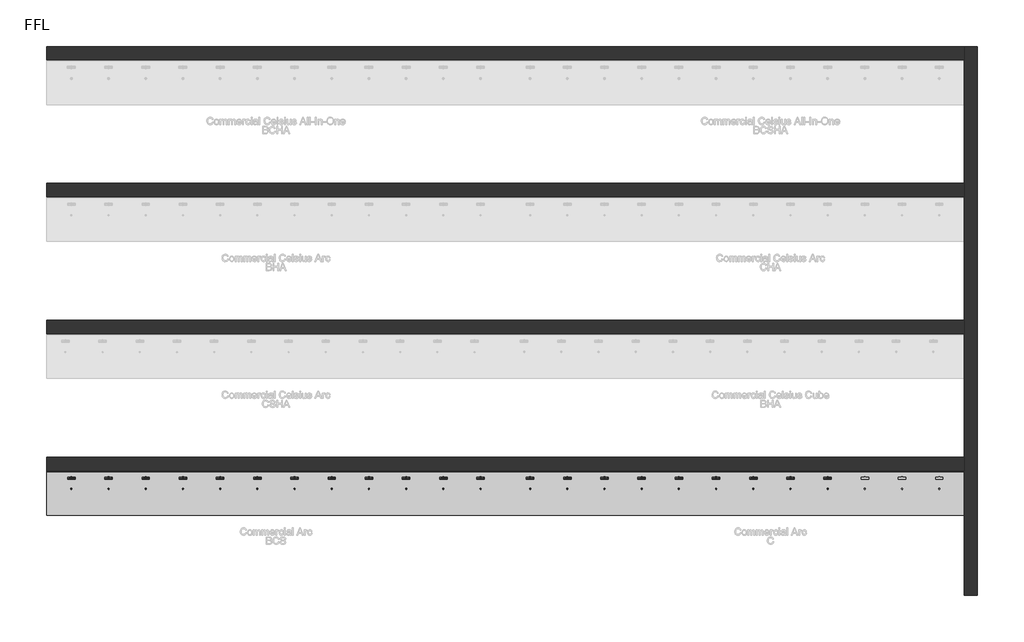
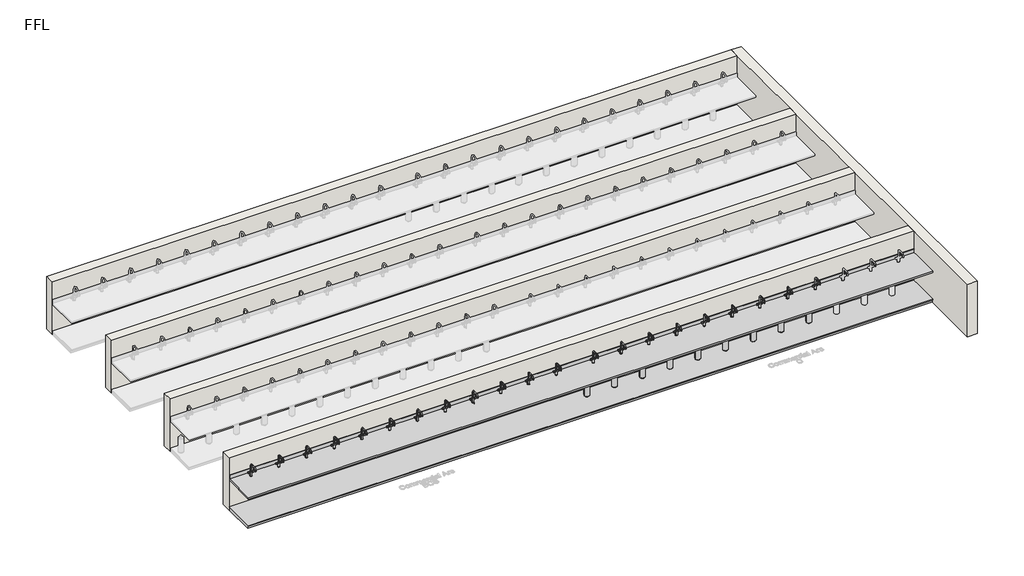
# One storey, part 1 of 9: 52 flow terminals, 5 walls, 2 furniture elements.
"""IFC4 building model written with IfcOpenShell, lengths in millimetres."""

from ifc_helpers import new_model, si_unit, frame, origin, origin_with_axes, place, context, project, spatial, polyline, circle_curve, outline, extrude, faceted_brep, transform, mapped, element, save
from ifc_brep_helpers import plane_surface, revolved_surface, advanced_brep
from components import flow_terminal_100_people_nickel_0dc622b1, bright_chrome_d5fbbf34, co2_gas_cylinder_20234e14, generic_plinth_900mm_f287d53f

model = new_model("IFC4")

# Units and contexts
model_context = context("Model", 3, world=origin())
ifc_project = project(units=[si_unit("LENGTHUNIT", "METRE", prefix="MILLI")], contexts=[model_context])

# Site, building, storey
site = spatial("IfcSite", under=ifc_project)
building = spatial("IfcBuilding", under=site)
storey = spatial("IfcBuildingStorey", under=building, Name="FFL", Elevation=0.0)

# Flow terminals
placement = place(None, origin())
flow_terminal_100_people_nickel_shape = flow_terminal_100_people_nickel_0dc622b1(model_context)
element("IfcFlowTerminal", 1, ObjectType="PlumFixt_Zip Commercial_Celsius Cube_CSHA : 100 People - Bright Chrome", at=placement, inside=storey, context=model_context, shape_type="MappedRepresentation", body=[
    mapped(flow_terminal_100_people_nickel_shape, transform((2779.2647071, -697.2606696, 0.0), x_axis=(1.0, 0.0, 0.0), y_axis=(0.0, 1.0, 0.0), z_axis=(0.0, 0.0, 1.0))),
])
element("IfcFlowTerminal", 2, ObjectType="PlumFixt_Zip Commercial_Celsius Cube_CHA : 100 People - Bright Chrome", at=placement, inside=storey, context=model_context, shape_type="MappedRepresentation", body=[
    mapped(flow_terminal_100_people_nickel_shape, transform((-6470.7352929, -697.2606696, 0.0), x_axis=(1.0, 0.0, 0.0), y_axis=(0.0, 1.0, 0.0), z_axis=(0.0, 0.0, 1.0))),
])
element("IfcFlowTerminal", 3, ObjectType="PlumFixt_Zip Commercial_Celsius Cube_CSHA : 100 People - Brushed Chrome", at=placement, inside=storey, context=model_context, shape_type="MappedRepresentation", body=[
    mapped(flow_terminal_100_people_nickel_shape, transform((3529.2647071, -697.2606696, 0.0), x_axis=(1.0, 0.0, 0.0), y_axis=(0.0, 1.0, 0.0), z_axis=(0.0, 0.0, 1.0))),
])
element("IfcFlowTerminal", 4, ObjectType="PlumFixt_Zip Commercial_Celsius Cube_CHA : 100 People - Brushed Chrome", at=placement, inside=storey, context=model_context, shape_type="MappedRepresentation", body=[
    mapped(flow_terminal_100_people_nickel_shape, transform((-5720.7352929, -697.2606696, 0.0), x_axis=(1.0, 0.0, 0.0), y_axis=(0.0, 1.0, 0.0), z_axis=(0.0, 0.0, 1.0))),
])
element("IfcFlowTerminal", 5, ObjectType="PlumFixt_Zip Commercial_Celsius Cube_CHA : 100 People - Brushed Gold", at=placement, inside=storey, context=model_context, shape_type="MappedRepresentation", body=[
    mapped(flow_terminal_100_people_nickel_shape, transform((-4970.7352929, -697.2606696, 0.0), x_axis=(1.0, 0.0, 0.0), y_axis=(0.0, 1.0, 0.0), z_axis=(0.0, 0.0, 1.0))),
])
element("IfcFlowTerminal", 6, ObjectType="PlumFixt_Zip Commercial_Celsius Cube_CSHA : 100 People - Brushed Nickel", at=placement, inside=storey, context=model_context, shape_type="MappedRepresentation", body=[
    mapped(flow_terminal_100_people_nickel_shape, transform((4279.2647071, -697.2606696, 0.0), x_axis=(1.0, 0.0, 0.0), y_axis=(0.0, 1.0, 0.0), z_axis=(0.0, 0.0, 1.0))),
])
element("IfcFlowTerminal", 7, ObjectType="PlumFixt_Zip Commercial_Celsius Cube_CSHA : 100 People - Brushed Nickel", at=placement, inside=storey, context=model_context, shape_type="MappedRepresentation", body=[
    mapped(flow_terminal_100_people_nickel_shape, transform((5029.2647071, -697.2606696, 0.0), x_axis=(1.0, 0.0, 0.0), y_axis=(0.0, 1.0, 0.0), z_axis=(0.0, 0.0, 1.0))),
])
element("IfcFlowTerminal", 8, ObjectType="PlumFixt_Zip Commercial_Celsius Cube_CHA : 100 People - Brushed Nickel", at=placement, inside=storey, context=model_context, shape_type="MappedRepresentation", body=[
    mapped(flow_terminal_100_people_nickel_shape, transform((-4220.7352929, -697.2606696, 0.0), x_axis=(1.0, 0.0, 0.0), y_axis=(0.0, 1.0, 0.0), z_axis=(0.0, 0.0, 1.0))),
])
element("IfcFlowTerminal", 9, ObjectType="PlumFixt_Zip Commercial_Celsius Cube_CSHA : 100 People - Brushed Rose Gold", at=placement, inside=storey, context=model_context, shape_type="MappedRepresentation", body=[
    mapped(flow_terminal_100_people_nickel_shape, transform((5779.2647071, -697.2606696, 0.0), x_axis=(1.0, 0.0, 0.0), y_axis=(0.0, 1.0, 0.0), z_axis=(0.0, 0.0, 1.0))),
])
element("IfcFlowTerminal", 10, ObjectType="PlumFixt_Zip Commercial_Celsius Cube_CHA : 100 People - Brushed Rose Gold", at=placement, inside=storey, context=model_context, shape_type="MappedRepresentation", body=[
    mapped(flow_terminal_100_people_nickel_shape, transform((-3470.7352929, -697.2606696, 0.0), x_axis=(1.0, 0.0, 0.0), y_axis=(0.0, 1.0, 0.0), z_axis=(0.0, 0.0, 1.0))),
])
element("IfcFlowTerminal", 11, ObjectType="PlumFixt_Zip Commercial_Celsius Cube_CSHA : 100 People - Gloss Black", at=placement, inside=storey, context=model_context, shape_type="MappedRepresentation", body=[
    mapped(flow_terminal_100_people_nickel_shape, transform((6529.2647071, -697.2606696, 0.0), x_axis=(1.0, 0.0, 0.0), y_axis=(0.0, 1.0, 0.0), z_axis=(0.0, 0.0, 1.0))),
])
element("IfcFlowTerminal", 12, ObjectType="PlumFixt_Zip Commercial_Celsius Cube_CHA : 100 People - Gloss Black", at=placement, inside=storey, context=model_context, shape_type="MappedRepresentation", body=[
    mapped(flow_terminal_100_people_nickel_shape, transform((-2720.7352929, -697.2606696, 0.0), x_axis=(1.0, 0.0, 0.0), y_axis=(0.0, 1.0, 0.0), z_axis=(0.0, 0.0, 1.0))),
])
element("IfcFlowTerminal", 13, ObjectType="PlumFixt_Zip Commercial_Celsius Cube_CSHA : 100 People - Gold", at=placement, inside=storey, context=model_context, shape_type="MappedRepresentation", body=[
    mapped(flow_terminal_100_people_nickel_shape, transform((7279.2647071, -697.2606696, 0.0), x_axis=(1.0, 0.0, 0.0), y_axis=(0.0, 1.0, 0.0), z_axis=(0.0, 0.0, 1.0))),
])
element("IfcFlowTerminal", 14, ObjectType="PlumFixt_Zip Commercial_Celsius Cube_CHA : 100 People - Gold", at=placement, inside=storey, context=model_context, shape_type="MappedRepresentation", body=[
    mapped(flow_terminal_100_people_nickel_shape, transform((-1970.7352929, -697.2606696, 0.0), x_axis=(1.0, 0.0, 0.0), y_axis=(0.0, 1.0, 0.0), z_axis=(0.0, 0.0, 1.0))),
])
element("IfcFlowTerminal", 15, ObjectType="PlumFixt_Zip Commercial_Celsius Cube_CSHA : 100 People - Gunmetal", at=placement, inside=storey, context=model_context, shape_type="MappedRepresentation", body=[
    mapped(flow_terminal_100_people_nickel_shape, transform((8029.2647071, -697.2606696, 0.0), x_axis=(1.0, 0.0, 0.0), y_axis=(0.0, 1.0, 0.0), z_axis=(0.0, 0.0, 1.0))),
])
element("IfcFlowTerminal", 16, ObjectType="PlumFixt_Zip Commercial_Celsius Cube_CHA : 100 People - Gunmetal", at=placement, inside=storey, context=model_context, shape_type="MappedRepresentation", body=[
    mapped(flow_terminal_100_people_nickel_shape, transform((-1220.7352929, -697.2606696, 0.0), x_axis=(1.0, 0.0, 0.0), y_axis=(0.0, 1.0, 0.0), z_axis=(0.0, 0.0, 1.0))),
])
element("IfcFlowTerminal", 17, ObjectType="PlumFixt_Zip Commercial_Celsius Cube_CSHA : 100 People - Matte Black", at=placement, inside=storey, context=model_context, shape_type="MappedRepresentation", body=[
    mapped(flow_terminal_100_people_nickel_shape, transform((8779.2647071, -697.2606696, 0.0), x_axis=(1.0, 0.0, 0.0), y_axis=(0.0, 1.0, 0.0), z_axis=(0.0, 0.0, 1.0))),
])
element("IfcFlowTerminal", 18, ObjectType="PlumFixt_Zip Commercial_Celsius Cube_CHA : 100 People - Matte Black", at=placement, inside=storey, context=model_context, shape_type="MappedRepresentation", body=[
    mapped(flow_terminal_100_people_nickel_shape, transform((-470.7352929, -697.2606696, 0.0), x_axis=(1.0, 0.0, 0.0), y_axis=(0.0, 1.0, 0.0), z_axis=(0.0, 0.0, 1.0))),
])
element("IfcFlowTerminal", 19, ObjectType="PlumFixt_Zip Commercial_Celsius Cube_CSHA : 100 People - Nickel", at=placement, inside=storey, context=model_context, shape_type="MappedRepresentation", body=[
    mapped(flow_terminal_100_people_nickel_shape, transform((9529.2647071, -697.2606696, 0.0), x_axis=(1.0, 0.0, 0.0), y_axis=(0.0, 1.0, 0.0), z_axis=(0.0, 0.0, 1.0))),
])
element("IfcFlowTerminal", 20, ObjectType="PlumFixt_Zip Commercial_Celsius Cube_CHA : 100 People - Nickel", at=placement, inside=storey, context=model_context, shape_type="MappedRepresentation", body=[
    mapped(flow_terminal_100_people_nickel_shape, transform((279.2647071, -697.2606696, 0.0), x_axis=(1.0, 0.0, 0.0), y_axis=(0.0, 1.0, 0.0), z_axis=(0.0, 0.0, 1.0))),
])
element("IfcFlowTerminal", 21, ObjectType="PlumFixt_Zip Commercial_Celsius Cube_CHA : 100 People - Platinum", at=placement, inside=storey, context=model_context, shape_type="MappedRepresentation", body=[
    mapped(flow_terminal_100_people_nickel_shape, transform((1029.2647071, -697.2606696, 0.0), x_axis=(1.0, 0.0, 0.0), y_axis=(0.0, 1.0, 0.0), z_axis=(0.0, 0.0, 1.0))),
])
element("IfcFlowTerminal", 22, ObjectType="PlumFixt_Zip Commercial_Celsius Cube_CHA : 100 People - Rose Gold", at=placement, inside=storey, context=model_context, shape_type="MappedRepresentation", body=[
    mapped(flow_terminal_100_people_nickel_shape, transform((1779.2647071, -697.2606696, 0.0), x_axis=(1.0, 0.0, 0.0), y_axis=(0.0, 1.0, 0.0), z_axis=(0.0, 0.0, 1.0))),
])
bright_chrome_shape = bright_chrome_d5fbbf34(model_context)
element("IfcFlowTerminal", 23, ObjectType="z_PlumFixt_Zip_Celsius Cube : Bright Chrome", at=placement, inside=storey, context=model_context, shape_type="MappedRepresentation", body=[
    mapped(bright_chrome_shape, transform((-6470.7352929, -670.5106696, 900.0), x_axis=(0.9999999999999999, 0.0, 0.0), y_axis=(0.0, 0.9999999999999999, 0.0), z_axis=(0.0, 0.0, 1.0))),
])
element("IfcFlowTerminal", 24, ObjectType="z_PlumFixt_Zip_Celsius Cube : Bright Chrome", at=placement, inside=storey, context=model_context, shape_type="MappedRepresentation", body=[
    mapped(bright_chrome_shape, transform((2779.2647071, -670.5106696, 900.0), x_axis=(1.0, 0.0, 0.0), y_axis=(0.0, 1.0, 0.0), z_axis=(0.0, 0.0, 1.0))),
])
element("IfcFlowTerminal", 25, ObjectType="z_PlumFixt_Zip_Celsius Cube : Brushed Chrome", at=placement, inside=storey, context=model_context, shape_type="MappedRepresentation", body=[
    mapped(bright_chrome_shape, transform((-5720.7352929, -670.5106696, 900.0), x_axis=(0.9999999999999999, 0.0, 0.0), y_axis=(0.0, 0.9999999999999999, 0.0), z_axis=(0.0, 0.0, 1.0))),
])
element("IfcFlowTerminal", 26, ObjectType="z_PlumFixt_Zip_Celsius Cube : Brushed Chrome", at=placement, inside=storey, context=model_context, shape_type="MappedRepresentation", body=[
    mapped(bright_chrome_shape, transform((3529.2647071, -670.5106696, 900.0), x_axis=(1.0, 0.0, 0.0), y_axis=(0.0, 1.0, 0.0), z_axis=(0.0, 0.0, 1.0))),
])
element("IfcFlowTerminal", 27, ObjectType="z_PlumFixt_Zip_Celsius Cube : Brushed Gold", at=placement, inside=storey, context=model_context, shape_type="MappedRepresentation", body=[
    mapped(bright_chrome_shape, transform((-4970.7352929, -670.5106696, 900.0), x_axis=(0.9999999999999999, 0.0, 0.0), y_axis=(0.0, 0.9999999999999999, 0.0), z_axis=(0.0, 0.0, 1.0))),
])
element("IfcFlowTerminal", 28, ObjectType="z_PlumFixt_Zip_Celsius Cube : Brushed Nickel", at=placement, inside=storey, context=model_context, shape_type="MappedRepresentation", body=[
    mapped(bright_chrome_shape, transform((-4220.7352929, -670.5106696, 900.0), x_axis=(0.9999999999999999, 0.0, 0.0), y_axis=(0.0, 0.9999999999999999, 0.0), z_axis=(0.0, 0.0, 1.0))),
])
element("IfcFlowTerminal", 29, ObjectType="z_PlumFixt_Zip_Celsius Cube : Brushed Nickel", at=placement, inside=storey, context=model_context, shape_type="MappedRepresentation", body=[
    mapped(bright_chrome_shape, transform((4279.2647071, -670.5106696, 900.0), x_axis=(1.0, 0.0, 0.0), y_axis=(0.0, 1.0, 0.0), z_axis=(0.0, 0.0, 1.0))),
])
element("IfcFlowTerminal", 30, ObjectType="z_PlumFixt_Zip_Celsius Cube : Brushed Nickel", at=placement, inside=storey, context=model_context, shape_type="MappedRepresentation", body=[
    mapped(bright_chrome_shape, transform((5029.2647071, -670.5106696, 900.0), x_axis=(1.0, 0.0, 0.0), y_axis=(0.0, 1.0, 0.0), z_axis=(0.0, 0.0, 1.0))),
])
element("IfcFlowTerminal", 31, ObjectType="z_PlumFixt_Zip_Celsius Cube : Brushed Rose Gold", at=placement, inside=storey, context=model_context, shape_type="MappedRepresentation", body=[
    mapped(bright_chrome_shape, transform((-3470.7352929, -670.5106696, 900.0), x_axis=(0.9999999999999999, 0.0, 0.0), y_axis=(0.0, 0.9999999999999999, 0.0), z_axis=(0.0, 0.0, 1.0))),
])
element("IfcFlowTerminal", 32, ObjectType="z_PlumFixt_Zip_Celsius Cube : Brushed Rose Gold", at=placement, inside=storey, context=model_context, shape_type="MappedRepresentation", body=[
    mapped(bright_chrome_shape, transform((5779.2647071, -670.5106696, 900.0), x_axis=(1.0, 0.0, 0.0), y_axis=(0.0, 1.0, 0.0), z_axis=(0.0, 0.0, 1.0))),
])
co2_gas_cylinder_shape = co2_gas_cylinder_20234e14(model_context)
element("IfcFlowTerminal", 33, ObjectType="z_PlumFixt_Zip_CO2 Gas Cylinder : CO2 Gas Cylinder", at=placement, inside=storey, context=model_context, shape_type="MappedRepresentation", body=[
    mapped(co2_gas_cylinder_shape, transform((2541.2647071, -776.7606696, 100.0), x_axis=(-1.0, 0.0, 0.0), y_axis=(0.0, -1.0, 0.0), z_axis=(0.0, 0.0, 1.0))),
])
element("IfcFlowTerminal", 34, ObjectType="z_PlumFixt_Zip_CO2 Gas Cylinder : CO2 Gas Cylinder", at=placement, inside=storey, context=model_context, shape_type="MappedRepresentation", body=[
    mapped(co2_gas_cylinder_shape, transform((3291.2647071, -776.7606696, 100.0), x_axis=(-1.0, 0.0, 0.0), y_axis=(0.0, -1.0, 0.0), z_axis=(0.0, 0.0, 1.0))),
])
element("IfcFlowTerminal", 35, ObjectType="z_PlumFixt_Zip_CO2 Gas Cylinder : CO2 Gas Cylinder", at=placement, inside=storey, context=model_context, shape_type="MappedRepresentation", body=[
    mapped(co2_gas_cylinder_shape, transform((4041.2647071, -776.7606696, 100.0), x_axis=(-1.0, 0.0, 0.0), y_axis=(0.0, -1.0, 0.0), z_axis=(0.0, 0.0, 1.0))),
])
element("IfcFlowTerminal", 36, ObjectType="z_PlumFixt_Zip_CO2 Gas Cylinder : CO2 Gas Cylinder", at=placement, inside=storey, context=model_context, shape_type="MappedRepresentation", body=[
    mapped(co2_gas_cylinder_shape, transform((4791.2647071, -776.7606696, 100.0), x_axis=(-1.0, 0.0, 0.0), y_axis=(0.0, -1.0, 0.0), z_axis=(0.0, 0.0, 1.0))),
])
element("IfcFlowTerminal", 37, ObjectType="z_PlumFixt_Zip_CO2 Gas Cylinder : CO2 Gas Cylinder", at=placement, inside=storey, context=model_context, shape_type="MappedRepresentation", body=[
    mapped(co2_gas_cylinder_shape, transform((5541.2647071, -776.7606696, 100.0), x_axis=(-1.0, 0.0, 0.0), y_axis=(0.0, -1.0, 0.0), z_axis=(0.0, 0.0, 1.0))),
])
element("IfcFlowTerminal", 38, ObjectType="z_PlumFixt_Zip_CO2 Gas Cylinder : CO2 Gas Cylinder", at=placement, inside=storey, context=model_context, shape_type="MappedRepresentation", body=[
    mapped(co2_gas_cylinder_shape, transform((6291.2647071, -776.7606696, 100.0), x_axis=(-1.0, 0.0, 0.0), y_axis=(0.0, -1.0, 0.0), z_axis=(0.0, 0.0, 1.0))),
])
element("IfcFlowTerminal", 39, ObjectType="z_PlumFixt_Zip_CO2 Gas Cylinder : CO2 Gas Cylinder", at=placement, inside=storey, context=model_context, shape_type="MappedRepresentation", body=[
    mapped(co2_gas_cylinder_shape, transform((7041.2647071, -776.7606696, 100.0), x_axis=(-1.0, 0.0, 0.0), y_axis=(0.0, -1.0, 0.0), z_axis=(0.0, 0.0, 1.0))),
])
element("IfcFlowTerminal", 40, ObjectType="z_PlumFixt_Zip_CO2 Gas Cylinder : CO2 Gas Cylinder", at=placement, inside=storey, context=model_context, shape_type="MappedRepresentation", body=[
    mapped(co2_gas_cylinder_shape, transform((7791.2647071, -776.7606696, 100.0), x_axis=(-1.0, 0.0, 0.0), y_axis=(0.0, -1.0, 0.0), z_axis=(0.0, 0.0, 1.0))),
])
element("IfcFlowTerminal", 41, ObjectType="z_PlumFixt_Zip_CO2 Gas Cylinder : CO2 Gas Cylinder", at=placement, inside=storey, context=model_context, shape_type="MappedRepresentation", body=[
    mapped(co2_gas_cylinder_shape, transform((8541.2647071, -776.7606696, 100.0), x_axis=(-1.0, 0.0, 0.0), y_axis=(0.0, -1.0, 0.0), z_axis=(0.0, 0.0, 1.0))),
])
element("IfcFlowTerminal", 42, ObjectType="z_PlumFixt_Zip_Celsius Cube : Gloss Black", at=placement, inside=storey, context=model_context, shape_type="MappedRepresentation", body=[
    mapped(bright_chrome_shape, transform((-2720.7352929, -670.5106696, 900.0), x_axis=(0.9999999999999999, 0.0, 0.0), y_axis=(0.0, 0.9999999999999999, 0.0), z_axis=(0.0, 0.0, 1.0))),
])
element("IfcFlowTerminal", 43, ObjectType="z_PlumFixt_Zip_Celsius Cube : Gloss Black", at=placement, inside=storey, context=model_context, shape_type="MappedRepresentation", body=[
    mapped(bright_chrome_shape, transform((6529.2647071, -670.5106696, 900.0), x_axis=(1.0, 0.0, 0.0), y_axis=(0.0, 1.0, 0.0), z_axis=(0.0, 0.0, 1.0))),
])
element("IfcFlowTerminal", 44, ObjectType="z_PlumFixt_Zip_Celsius Cube : Gold", at=placement, inside=storey, context=model_context, shape_type="MappedRepresentation", body=[
    mapped(bright_chrome_shape, transform((-1970.7352929, -670.5106696, 900.0), x_axis=(0.9999999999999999, 0.0, 0.0), y_axis=(0.0, 0.9999999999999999, 0.0), z_axis=(0.0, 0.0, 1.0))),
])
element("IfcFlowTerminal", 45, ObjectType="z_PlumFixt_Zip_Celsius Cube : Gold", at=placement, inside=storey, context=model_context, shape_type="MappedRepresentation", body=[
    mapped(bright_chrome_shape, transform((7279.2647071, -670.5106696, 900.0), x_axis=(1.0, 0.0, 0.0), y_axis=(0.0, 1.0, 0.0), z_axis=(0.0, 0.0, 1.0))),
])
element("IfcFlowTerminal", 46, ObjectType="z_PlumFixt_Zip_Celsius Cube : Gunmetal", at=placement, inside=storey, context=model_context, shape_type="MappedRepresentation", body=[
    mapped(bright_chrome_shape, transform((-1220.7352929, -670.5106696, 900.0), x_axis=(0.9999999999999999, 0.0, 0.0), y_axis=(0.0, 0.9999999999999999, 0.0), z_axis=(0.0, 0.0, 1.0))),
])
element("IfcFlowTerminal", 47, ObjectType="z_PlumFixt_Zip_Celsius Cube : Gunmetal", at=placement, inside=storey, context=model_context, shape_type="MappedRepresentation", body=[
    mapped(bright_chrome_shape, transform((8029.2647071, -670.5106696, 900.0), x_axis=(1.0, 0.0, 0.0), y_axis=(0.0, 1.0, 0.0), z_axis=(0.0, 0.0, 1.0))),
])
element("IfcFlowTerminal", 48, ObjectType="z_PlumFixt_Zip_Celsius Cube : Matte Black", at=placement, inside=storey, context=model_context, shape_type="MappedRepresentation", body=[
    mapped(bright_chrome_shape, transform((-470.7352929, -670.5106696, 900.0), x_axis=(0.9999999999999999, 0.0, 0.0), y_axis=(0.0, 0.9999999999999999, 0.0), z_axis=(0.0, 0.0, 1.0))),
])
element("IfcFlowTerminal", 49, ObjectType="z_PlumFixt_Zip_Celsius Cube : Matte Black", at=placement, inside=storey, context=model_context, shape_type="MappedRepresentation", body=[
    mapped(bright_chrome_shape, transform((8779.2647071, -670.5106696, 900.0), x_axis=(1.0, 0.0, 0.0), y_axis=(0.0, 1.0, 0.0), z_axis=(0.0, 0.0, 1.0))),
])
element("IfcFlowTerminal", 50, ObjectType="z_PlumFixt_Zip_Celsius Cube : Nickel", at=placement, inside=storey, context=model_context, shape_type="MappedRepresentation", body=[
    mapped(bright_chrome_shape, transform((279.2647071, -670.5106696, 900.0), x_axis=(0.9999999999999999, 0.0, 0.0), y_axis=(0.0, 0.9999999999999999, 0.0), z_axis=(0.0, 0.0, 1.0))),
])
element("IfcFlowTerminal", 51, ObjectType="z_PlumFixt_Zip_Celsius Cube : Platinum", at=placement, inside=storey, context=model_context, shape_type="MappedRepresentation", body=[
    mapped(bright_chrome_shape, transform((1029.2647071, -670.5106696, 900.0), x_axis=(0.9999999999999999, 0.0, 0.0), y_axis=(0.0, 0.9999999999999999, 0.0), z_axis=(0.0, 0.0, 1.0))),
])
element("IfcFlowTerminal", 52, ObjectType="z_PlumFixt_Zip_Celsius Cube : Rose Gold", at=placement, inside=storey, context=model_context, shape_type="MappedRepresentation", body=[
    mapped(bright_chrome_shape, transform((1779.2647071, -670.5106696, 900.0), x_axis=(0.9999999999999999, 0.0, 0.0), y_axis=(0.0, 0.9999999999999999, 0.0), z_axis=(0.0, 0.0, 1.0))),
])

# Furniture
element("IfcFurniture", 53, ObjectType="Counter Top : 900mm Depth", at=placement, inside=storey, context=model_context, shape_type="AdvancedBrep", body=[
    advanced_brep(
    [(-6969.7352929, -1331.7606696, 900.0), (11530.2647071, -1331.7606696, 900.0), (11530.2647071, -450.8106696, 900.0), (-6969.7352929, -450.8106696, 900.0), (-6494.2352929, -581.7606696, 900.0), (-6445.2352929, -581.7606696, 900.0), (-5744.2352929, -581.7606696, 900.0), (-5695.2352929, -581.7606696, 900.0), (-4994.2352929, -581.7606696, 900.0), (-4945.2352929, -581.7606696, 900.0), (-4244.2352929, -581.7606696, 900.0), (-4195.2352929, -581.7606696, 900.0), (-3494.2352929, -581.7606696, 900.0), (-3445.2352929, -581.7606696, 900.0), (-2744.2352929, -581.7606696, 900.0), (-2695.2352929, -581.7606696, 900.0), (-1994.2352929, -581.7606696, 900.0), (-1945.2352929, -581.7606696, 900.0), (-1244.2352929, -581.7606696, 900.0), (-1195.2352929, -581.7606696, 900.0), (-494.2352929, -581.7606696, 900.0), (-445.2352929, -581.7606696, 900.0), (255.7647071, -581.7606696, 900.0), (304.7647071, -581.7606696, 900.0), (1005.7647071, -581.7606696, 900.0), (1054.7647071, -581.7606696, 900.0), (1755.7647071, -581.7606696, 900.0), (1804.7647071, -581.7606696, 900.0), (2755.7647071, -581.7606696, 900.0), (2804.7647071, -581.7606696, 900.0), (3505.7647071, -581.7606696, 900.0), (3554.7647071, -581.7606696, 900.0), (4255.7647071, -581.7606696, 900.0), (4304.7647071, -581.7606696, 900.0), (5005.7647071, -581.7606696, 900.0), (5054.7647071, -581.7606696, 900.0), (5755.7647071, -581.7606696, 900.0), (5804.7647071, -581.7606696, 900.0), (6505.7647071, -581.7606696, 900.0), (6554.7647071, -581.7606696, 900.0), (7255.7647071, -581.7606696, 900.0), (7304.7647071, -581.7606696, 900.0), (8005.7647071, -581.7606696, 900.0), (8054.7647071, -581.7606696, 900.0), (8755.7647071, -581.7606696, 900.0), (8804.7647071, -581.7606696, 900.0), (9505.7647071, -581.7606696, 900.0), (9554.7647071, -581.7606696, 900.0), (10255.7647071, -581.7606696, 900.0), (10304.7647071, -581.7606696, 900.0), (11005.7647071, -581.7606696, 900.0), (11054.7647071, -581.7606696, 900.0), (11530.2647071, -431.7606696, 860.0), (11530.2647071, -1331.7606696, 860.0), (-6969.7352929, -1331.7606696, 860.0), (-6969.7352929, -431.7606696, 860.0), (-6445.2352929, -581.7606696, 860.0), (-6494.2352929, -581.7606696, 860.0), (-5695.2352929, -581.7606696, 860.0), (-5744.2352929, -581.7606696, 860.0), (-4945.2352929, -581.7606696, 860.0), (-4994.2352929, -581.7606696, 860.0), (-4195.2352929, -581.7606696, 860.0), (-4244.2352929, -581.7606696, 860.0), (-3445.2352929, -581.7606696, 860.0), (-3494.2352929, -581.7606696, 860.0), (-2695.2352929, -581.7606696, 860.0), (-2744.2352929, -581.7606696, 860.0), (-1945.2352929, -581.7606696, 860.0), (-1994.2352929, -581.7606696, 860.0), (-1195.2352929, -581.7606696, 860.0), (-1244.2352929, -581.7606696, 860.0), (-445.2352929, -581.7606696, 860.0), (-494.2352929, -581.7606696, 860.0), (304.7647071, -581.7606696, 860.0), (255.7647071, -581.7606696, 860.0), (1054.7647071, -581.7606696, 860.0), (1005.7647071, -581.7606696, 860.0), (1804.7647071, -581.7606696, 860.0), (1755.7647071, -581.7606696, 860.0), (2804.7647071, -581.7606696, 860.0), (2755.7647071, -581.7606696, 860.0), (3554.7647071, -581.7606696, 860.0), (3505.7647071, -581.7606696, 860.0), (4304.7647071, -581.7606696, 860.0), (4255.7647071, -581.7606696, 860.0), (5054.7647071, -581.7606696, 860.0), (5005.7647071, -581.7606696, 860.0), (5804.7647071, -581.7606696, 860.0), (5755.7647071, -581.7606696, 860.0), (6554.7647071, -581.7606696, 860.0), (6505.7647071, -581.7606696, 860.0), (7304.7647071, -581.7606696, 860.0), (7255.7647071, -581.7606696, 860.0), (8054.7647071, -581.7606696, 860.0), (8005.7647071, -581.7606696, 860.0), (8804.7647071, -581.7606696, 860.0), (8755.7647071, -581.7606696, 860.0), (9554.7647071, -581.7606696, 860.0), (9505.7647071, -581.7606696, 860.0), (10304.7647071, -581.7606696, 860.0), (10255.7647071, -581.7606696, 860.0), (11054.7647071, -581.7606696, 860.0), (11005.7647071, -581.7606696, 860.0), (-6969.7352929, -431.7606696, 1001.6), (11530.2647071, -431.7606696, 1001.6), (-6969.7352929, -450.8106696, 1001.6), (11530.2647071, -450.8106696, 1001.6)],
    [
        (0, 1),
        (1, 2),
        (2, 3),
        (3, 0),
        (4, 5, circle_curve(frame((-6469.7352929, -581.7606696, 900.0), z_axis=(0.0, 0.0, -1.0), x_axis=(-0.9999999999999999, 0.0, 0.0)), 24.5)),
        (5, 4, circle_curve(frame((-6469.7352929, -581.7606696, 900.0), z_axis=(0.0, 0.0, -1.0), x_axis=(-0.9999999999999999, 0.0, 0.0)), 24.5)),
        (6, 7, circle_curve(frame((-5719.7352929, -581.7606696, 900.0), z_axis=(0.0, 0.0, -1.0), x_axis=(-0.9999999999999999, 0.0, 0.0)), 24.5)),
        (7, 6, circle_curve(frame((-5719.7352929, -581.7606696, 900.0), z_axis=(0.0, 0.0, -1.0), x_axis=(-0.9999999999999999, 0.0, 0.0)), 24.5)),
        (8, 9, circle_curve(frame((-4969.7352929, -581.7606696, 900.0), z_axis=(0.0, 0.0, -1.0), x_axis=(-0.9999999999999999, 0.0, 0.0)), 24.5)),
        (9, 8, circle_curve(frame((-4969.7352929, -581.7606696, 900.0), z_axis=(0.0, 0.0, -1.0), x_axis=(-0.9999999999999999, 0.0, 0.0)), 24.5)),
        (10, 11, circle_curve(frame((-4219.7352929, -581.7606696, 900.0), z_axis=(0.0, 0.0, -1.0), x_axis=(-0.9999999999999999, 0.0, 0.0)), 24.5)),
        (11, 10, circle_curve(frame((-4219.7352929, -581.7606696, 900.0), z_axis=(0.0, 0.0, -1.0), x_axis=(-0.9999999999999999, 0.0, 0.0)), 24.5)),
        (12, 13, circle_curve(frame((-3469.7352929, -581.7606696, 900.0), z_axis=(0.0, 0.0, -1.0), x_axis=(-0.9999999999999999, 0.0, 0.0)), 24.5)),
        (13, 12, circle_curve(frame((-3469.7352929, -581.7606696, 900.0), z_axis=(0.0, 0.0, -1.0), x_axis=(-0.9999999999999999, 0.0, 0.0)), 24.5)),
        (14, 15, circle_curve(frame((-2719.7352929, -581.7606696, 900.0), z_axis=(0.0, 0.0, -1.0), x_axis=(-0.9999999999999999, 0.0, 0.0)), 24.5)),
        (15, 14, circle_curve(frame((-2719.7352929, -581.7606696, 900.0), z_axis=(0.0, 0.0, -1.0), x_axis=(-0.9999999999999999, 0.0, 0.0)), 24.5)),
        (16, 17, circle_curve(frame((-1969.7352929, -581.7606696, 900.0), z_axis=(0.0, 0.0, -1.0), x_axis=(-0.9999999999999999, 0.0, 0.0)), 24.5)),
        (17, 16, circle_curve(frame((-1969.7352929, -581.7606696, 900.0), z_axis=(0.0, 0.0, -1.0), x_axis=(-0.9999999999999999, 0.0, 0.0)), 24.5)),
        (18, 19, circle_curve(frame((-1219.7352929, -581.7606696, 900.0), z_axis=(0.0, 0.0, -1.0), x_axis=(-0.9999999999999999, 0.0, 0.0)), 24.5)),
        (19, 18, circle_curve(frame((-1219.7352929, -581.7606696, 900.0), z_axis=(0.0, 0.0, -1.0), x_axis=(-0.9999999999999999, 0.0, 0.0)), 24.5)),
        (20, 21, circle_curve(frame((-469.7352929, -581.7606696, 900.0), z_axis=(0.0, 0.0, -1.0), x_axis=(-0.9999999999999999, 0.0, 0.0)), 24.5)),
        (21, 20, circle_curve(frame((-469.7352929, -581.7606696, 900.0), z_axis=(0.0, 0.0, -1.0), x_axis=(-0.9999999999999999, 0.0, 0.0)), 24.5)),
        (22, 23, circle_curve(frame((280.2647071, -581.7606696, 900.0), z_axis=(0.0, 0.0, -1.0), x_axis=(-0.9999999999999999, 0.0, 0.0)), 24.5)),
        (23, 22, circle_curve(frame((280.2647071, -581.7606696, 900.0), z_axis=(0.0, 0.0, -1.0), x_axis=(-0.9999999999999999, 0.0, 0.0)), 24.5)),
        (24, 25, circle_curve(frame((1030.2647071, -581.7606696, 900.0), z_axis=(0.0, 0.0, -1.0), x_axis=(-0.9999999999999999, 0.0, 0.0)), 24.5)),
        (25, 24, circle_curve(frame((1030.2647071, -581.7606696, 900.0), z_axis=(0.0, 0.0, -1.0), x_axis=(-0.9999999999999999, 0.0, 0.0)), 24.5)),
        (26, 27, circle_curve(frame((1780.2647071, -581.7606696, 900.0), z_axis=(0.0, 0.0, -1.0), x_axis=(-0.9999999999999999, 0.0, 0.0)), 24.5)),
        (27, 26, circle_curve(frame((1780.2647071, -581.7606696, 900.0), z_axis=(0.0, 0.0, -1.0), x_axis=(-0.9999999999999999, 0.0, 0.0)), 24.5)),
        (28, 29, circle_curve(frame((2780.2647071, -581.7606696, 900.0), z_axis=(0.0, 0.0, -1.0), x_axis=(-1.0, 0.0, 0.0)), 24.5)),
        (29, 28, circle_curve(frame((2780.2647071, -581.7606696, 900.0), z_axis=(0.0, 0.0, -1.0), x_axis=(-1.0, 0.0, 0.0)), 24.5)),
        (30, 31, circle_curve(frame((3530.2647071, -581.7606696, 900.0), z_axis=(0.0, 0.0, -1.0), x_axis=(-1.0, 0.0, 0.0)), 24.5)),
        (31, 30, circle_curve(frame((3530.2647071, -581.7606696, 900.0), z_axis=(0.0, 0.0, -1.0), x_axis=(-1.0, 0.0, 0.0)), 24.5)),
        (32, 33, circle_curve(frame((4280.2647071, -581.7606696, 900.0), z_axis=(0.0, 0.0, -1.0), x_axis=(-1.0, 0.0, 0.0)), 24.5)),
        (33, 32, circle_curve(frame((4280.2647071, -581.7606696, 900.0), z_axis=(0.0, 0.0, -1.0), x_axis=(-1.0, 0.0, 0.0)), 24.5)),
        (34, 35, circle_curve(frame((5030.2647071, -581.7606696, 900.0), z_axis=(0.0, 0.0, -1.0), x_axis=(-1.0, 0.0, 0.0)), 24.5)),
        (35, 34, circle_curve(frame((5030.2647071, -581.7606696, 900.0), z_axis=(0.0, 0.0, -1.0), x_axis=(-1.0, 0.0, 0.0)), 24.5)),
        (36, 37, circle_curve(frame((5780.2647071, -581.7606696, 900.0), z_axis=(0.0, 0.0, -1.0), x_axis=(-1.0, 0.0, 0.0)), 24.5)),
        (37, 36, circle_curve(frame((5780.2647071, -581.7606696, 900.0), z_axis=(0.0, 0.0, -1.0), x_axis=(-1.0, 0.0, 0.0)), 24.5)),
        (38, 39, circle_curve(frame((6530.2647071, -581.7606696, 900.0), z_axis=(0.0, 0.0, -1.0), x_axis=(-1.0, 0.0, 0.0)), 24.5)),
        (39, 38, circle_curve(frame((6530.2647071, -581.7606696, 900.0), z_axis=(0.0, 0.0, -1.0), x_axis=(-1.0, 0.0, 0.0)), 24.5)),
        (40, 41, circle_curve(frame((7280.2647071, -581.7606696, 900.0), z_axis=(0.0, 0.0, -1.0), x_axis=(-1.0, 0.0, 0.0)), 24.5)),
        (41, 40, circle_curve(frame((7280.2647071, -581.7606696, 900.0), z_axis=(0.0, 0.0, -1.0), x_axis=(-1.0, 0.0, 0.0)), 24.5)),
        (42, 43, circle_curve(frame((8030.2647071, -581.7606696, 900.0), z_axis=(0.0, 0.0, -1.0), x_axis=(-1.0, 0.0, 0.0)), 24.5)),
        (43, 42, circle_curve(frame((8030.2647071, -581.7606696, 900.0), z_axis=(0.0, 0.0, -1.0), x_axis=(-1.0, 0.0, 0.0)), 24.5)),
        (44, 45, circle_curve(frame((8780.2647071, -581.7606696, 900.0), z_axis=(0.0, 0.0, -1.0), x_axis=(-1.0, 0.0, 0.0)), 24.5)),
        (45, 44, circle_curve(frame((8780.2647071, -581.7606696, 900.0), z_axis=(0.0, 0.0, -1.0), x_axis=(-1.0, 0.0, 0.0)), 24.5)),
        (46, 47, circle_curve(frame((9530.2647071, -581.7606696, 900.0), z_axis=(0.0, 0.0, -1.0), x_axis=(-1.0, 0.0, 0.0)), 24.5)),
        (47, 46, circle_curve(frame((9530.2647071, -581.7606696, 900.0), z_axis=(0.0, 0.0, -1.0), x_axis=(-1.0, 0.0, 0.0)), 24.5)),
        (48, 49, circle_curve(frame((10280.2647071, -581.7606696, 900.0), z_axis=(0.0, 0.0, -1.0), x_axis=(-1.0, 0.0, 0.0)), 24.5)),
        (49, 48, circle_curve(frame((10280.2647071, -581.7606696, 900.0), z_axis=(0.0, 0.0, -1.0), x_axis=(-1.0, 0.0, 0.0)), 24.5)),
        (50, 51, circle_curve(frame((11030.2647071, -581.7606696, 900.0), z_axis=(0.0, 0.0, -1.0), x_axis=(-1.0, 0.0, 0.0)), 24.5)),
        (51, 50, circle_curve(frame((11030.2647071, -581.7606696, 900.0), z_axis=(0.0, 0.0, -1.0), x_axis=(-1.0, 0.0, 0.0)), 24.5)),
        (52, 53),
        (53, 54),
        (54, 55),
        (55, 52),
        (56, 57, circle_curve(frame((-6469.7352929, -581.7606696, 860.0), z_axis=(0.0, 0.0, 1.0), x_axis=(-0.9999999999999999, 0.0, 0.0)), 24.5)),
        (57, 56, circle_curve(frame((-6469.7352929, -581.7606696, 860.0), z_axis=(0.0, 0.0, 1.0), x_axis=(-0.9999999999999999, 0.0, 0.0)), 24.5)),
        (58, 59, circle_curve(frame((-5719.7352929, -581.7606696, 860.0), z_axis=(0.0, 0.0, 1.0), x_axis=(-0.9999999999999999, 0.0, 0.0)), 24.5)),
        (59, 58, circle_curve(frame((-5719.7352929, -581.7606696, 860.0), z_axis=(0.0, 0.0, 1.0), x_axis=(-0.9999999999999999, 0.0, 0.0)), 24.5)),
        (60, 61, circle_curve(frame((-4969.7352929, -581.7606696, 860.0), z_axis=(0.0, 0.0, 1.0), x_axis=(-0.9999999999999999, 0.0, 0.0)), 24.5)),
        (61, 60, circle_curve(frame((-4969.7352929, -581.7606696, 860.0), z_axis=(0.0, 0.0, 1.0), x_axis=(-0.9999999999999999, 0.0, 0.0)), 24.5)),
        (62, 63, circle_curve(frame((-4219.7352929, -581.7606696, 860.0), z_axis=(0.0, 0.0, 1.0), x_axis=(-0.9999999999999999, 0.0, 0.0)), 24.5)),
        (63, 62, circle_curve(frame((-4219.7352929, -581.7606696, 860.0), z_axis=(0.0, 0.0, 1.0), x_axis=(-0.9999999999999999, 0.0, 0.0)), 24.5)),
        (64, 65, circle_curve(frame((-3469.7352929, -581.7606696, 860.0), z_axis=(0.0, 0.0, 1.0), x_axis=(-0.9999999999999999, 0.0, 0.0)), 24.5)),
        (65, 64, circle_curve(frame((-3469.7352929, -581.7606696, 860.0), z_axis=(0.0, 0.0, 1.0), x_axis=(-0.9999999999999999, 0.0, 0.0)), 24.5)),
        (66, 67, circle_curve(frame((-2719.7352929, -581.7606696, 860.0), z_axis=(0.0, 0.0, 1.0), x_axis=(-0.9999999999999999, 0.0, 0.0)), 24.5)),
        (67, 66, circle_curve(frame((-2719.7352929, -581.7606696, 860.0), z_axis=(0.0, 0.0, 1.0), x_axis=(-0.9999999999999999, 0.0, 0.0)), 24.5)),
        (68, 69, circle_curve(frame((-1969.7352929, -581.7606696, 860.0), z_axis=(0.0, 0.0, 1.0), x_axis=(-0.9999999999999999, 0.0, 0.0)), 24.5)),
        (69, 68, circle_curve(frame((-1969.7352929, -581.7606696, 860.0), z_axis=(0.0, 0.0, 1.0), x_axis=(-0.9999999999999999, 0.0, 0.0)), 24.5)),
        (70, 71, circle_curve(frame((-1219.7352929, -581.7606696, 860.0), z_axis=(0.0, 0.0, 1.0), x_axis=(-0.9999999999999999, 0.0, 0.0)), 24.5)),
        (71, 70, circle_curve(frame((-1219.7352929, -581.7606696, 860.0), z_axis=(0.0, 0.0, 1.0), x_axis=(-0.9999999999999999, 0.0, 0.0)), 24.5)),
        (72, 73, circle_curve(frame((-469.7352929, -581.7606696, 860.0), z_axis=(0.0, 0.0, 1.0), x_axis=(-0.9999999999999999, 0.0, 0.0)), 24.5)),
        (73, 72, circle_curve(frame((-469.7352929, -581.7606696, 860.0), z_axis=(0.0, 0.0, 1.0), x_axis=(-0.9999999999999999, 0.0, 0.0)), 24.5)),
        (74, 75, circle_curve(frame((280.2647071, -581.7606696, 860.0), z_axis=(0.0, 0.0, 1.0), x_axis=(-0.9999999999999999, 0.0, 0.0)), 24.5)),
        (75, 74, circle_curve(frame((280.2647071, -581.7606696, 860.0), z_axis=(0.0, 0.0, 1.0), x_axis=(-0.9999999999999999, 0.0, 0.0)), 24.5)),
        (76, 77, circle_curve(frame((1030.2647071, -581.7606696, 860.0), z_axis=(0.0, 0.0, 1.0), x_axis=(-0.9999999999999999, 0.0, 0.0)), 24.5)),
        (77, 76, circle_curve(frame((1030.2647071, -581.7606696, 860.0), z_axis=(0.0, 0.0, 1.0), x_axis=(-0.9999999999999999, 0.0, 0.0)), 24.5)),
        (78, 79, circle_curve(frame((1780.2647071, -581.7606696, 860.0), z_axis=(0.0, 0.0, 1.0), x_axis=(-0.9999999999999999, 0.0, 0.0)), 24.5)),
        (79, 78, circle_curve(frame((1780.2647071, -581.7606696, 860.0), z_axis=(0.0, 0.0, 1.0), x_axis=(-0.9999999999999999, 0.0, 0.0)), 24.5)),
        (80, 81, circle_curve(frame((2780.2647071, -581.7606696, 860.0), z_axis=(0.0, 0.0, 1.0), x_axis=(-1.0, 0.0, 0.0)), 24.5)),
        (81, 80, circle_curve(frame((2780.2647071, -581.7606696, 860.0), z_axis=(0.0, 0.0, 1.0), x_axis=(-1.0, 0.0, 0.0)), 24.5)),
        (82, 83, circle_curve(frame((3530.2647071, -581.7606696, 860.0), z_axis=(0.0, 0.0, 1.0), x_axis=(-1.0, 0.0, 0.0)), 24.5)),
        (83, 82, circle_curve(frame((3530.2647071, -581.7606696, 860.0), z_axis=(0.0, 0.0, 1.0), x_axis=(-1.0, 0.0, 0.0)), 24.5)),
        (84, 85, circle_curve(frame((4280.2647071, -581.7606696, 860.0), z_axis=(0.0, 0.0, 1.0), x_axis=(-1.0, 0.0, 0.0)), 24.5)),
        (85, 84, circle_curve(frame((4280.2647071, -581.7606696, 860.0), z_axis=(0.0, 0.0, 1.0), x_axis=(-1.0, 0.0, 0.0)), 24.5)),
        (86, 87, circle_curve(frame((5030.2647071, -581.7606696, 860.0), z_axis=(0.0, 0.0, 1.0), x_axis=(-1.0, 0.0, 0.0)), 24.5)),
        (87, 86, circle_curve(frame((5030.2647071, -581.7606696, 860.0), z_axis=(0.0, 0.0, 1.0), x_axis=(-1.0, 0.0, 0.0)), 24.5)),
        (88, 89, circle_curve(frame((5780.2647071, -581.7606696, 860.0), z_axis=(0.0, 0.0, 1.0), x_axis=(-1.0, 0.0, 0.0)), 24.5)),
        (89, 88, circle_curve(frame((5780.2647071, -581.7606696, 860.0), z_axis=(0.0, 0.0, 1.0), x_axis=(-1.0, 0.0, 0.0)), 24.5)),
        (90, 91, circle_curve(frame((6530.2647071, -581.7606696, 860.0), z_axis=(0.0, 0.0, 1.0), x_axis=(-1.0, 0.0, 0.0)), 24.5)),
        (91, 90, circle_curve(frame((6530.2647071, -581.7606696, 860.0), z_axis=(0.0, 0.0, 1.0), x_axis=(-1.0, 0.0, 0.0)), 24.5)),
        (92, 93, circle_curve(frame((7280.2647071, -581.7606696, 860.0), z_axis=(0.0, 0.0, 1.0), x_axis=(-1.0, 0.0, 0.0)), 24.5)),
        (93, 92, circle_curve(frame((7280.2647071, -581.7606696, 860.0), z_axis=(0.0, 0.0, 1.0), x_axis=(-1.0, 0.0, 0.0)), 24.5)),
        (94, 95, circle_curve(frame((8030.2647071, -581.7606696, 860.0), z_axis=(0.0, 0.0, 1.0), x_axis=(-1.0, 0.0, 0.0)), 24.5)),
        (95, 94, circle_curve(frame((8030.2647071, -581.7606696, 860.0), z_axis=(0.0, 0.0, 1.0), x_axis=(-1.0, 0.0, 0.0)), 24.5)),
        (96, 97, circle_curve(frame((8780.2647071, -581.7606696, 860.0), z_axis=(0.0, 0.0, 1.0), x_axis=(-1.0, 0.0, 0.0)), 24.5)),
        (97, 96, circle_curve(frame((8780.2647071, -581.7606696, 860.0), z_axis=(0.0, 0.0, 1.0), x_axis=(-1.0, 0.0, 0.0)), 24.5)),
        (98, 99, circle_curve(frame((9530.2647071, -581.7606696, 860.0), z_axis=(0.0, 0.0, 1.0), x_axis=(-1.0, 0.0, 0.0)), 24.5)),
        (99, 98, circle_curve(frame((9530.2647071, -581.7606696, 860.0), z_axis=(0.0, 0.0, 1.0), x_axis=(-1.0, 0.0, 0.0)), 24.5)),
        (100, 101, circle_curve(frame((10280.2647071, -581.7606696, 860.0), z_axis=(0.0, 0.0, 1.0), x_axis=(-1.0, 0.0, 0.0)), 24.5)),
        (101, 100, circle_curve(frame((10280.2647071, -581.7606696, 860.0), z_axis=(0.0, 0.0, 1.0), x_axis=(-1.0, 0.0, 0.0)), 24.5)),
        (102, 103, circle_curve(frame((11030.2647071, -581.7606696, 860.0), z_axis=(0.0, 0.0, 1.0), x_axis=(-1.0, 0.0, 0.0)), 24.5)),
        (103, 102, circle_curve(frame((11030.2647071, -581.7606696, 860.0), z_axis=(0.0, 0.0, 1.0), x_axis=(-1.0, 0.0, 0.0)), 24.5)),
        (55, 104),
        (104, 105),
        (105, 52),
        (3, 106),
        (106, 104),
        (54, 0),
        (53, 1),
        (105, 107),
        (107, 2),
        (106, 107),
        (56, 5),
        (4, 57),
        (58, 7),
        (6, 59),
        (60, 9),
        (8, 61),
        (62, 11),
        (10, 63),
        (64, 13),
        (12, 65),
        (66, 15),
        (14, 67),
        (68, 17),
        (16, 69),
        (70, 19),
        (18, 71),
        (72, 21),
        (20, 73),
        (74, 23),
        (22, 75),
        (76, 25),
        (24, 77),
        (78, 27),
        (26, 79),
        (80, 29),
        (28, 81),
        (82, 31),
        (30, 83),
        (84, 33),
        (32, 85),
        (86, 35),
        (34, 87),
        (88, 37),
        (36, 89),
        (90, 39),
        (38, 91),
        (92, 41),
        (40, 93),
        (94, 43),
        (42, 95),
        (96, 45),
        (44, 97),
        (98, 47),
        (46, 99),
        (100, 49),
        (48, 101),
        (102, 51),
        (50, 103),
    ],
    [
        plane_surface(frame((-6969.7352929, -431.7606696, 900.0), z_axis=(0.0, 0.0, 1.0), x_axis=(-1.0, 0.0, 0.0))),
        plane_surface(frame((-6969.7352929, -431.7606696, 860.0), z_axis=(0.0, 0.0, -1.0), x_axis=(1.0, 0.0, 0.0))),
        plane_surface(frame((11530.2647071, -431.7606696, 900.0), z_axis=(0.0, 1.0, 0.0), x_axis=(0.0, 0.0, -1.0))),
        plane_surface(frame((-6969.7352929, -431.7606696, 900.0), z_axis=(-1.0, 0.0, 0.0), x_axis=(0.0, 0.0, -1.0))),
        plane_surface(frame((-6969.7352929, -1331.7606696, 900.0), z_axis=(0.0, -1.0, 0.0), x_axis=(0.0, 0.0, -1.0))),
        plane_surface(frame((11530.2647071, -1331.7606696, 900.0), z_axis=(1.0, 0.0, 0.0), x_axis=(0.0, 0.0, -1.0))),
        plane_surface(frame((-6969.7352929, -431.7606696, 1001.6), z_axis=(0.0, 0.0, 1.0), x_axis=(0.0, -1.0, 0.0))),
        plane_surface(frame((-6969.7352929, -450.8106696, 1001.6), z_axis=(0.0, -1.0, 0.0), x_axis=(0.0, 0.0, -1.0))),
        revolved_surface(polyline([(-6494.2352929, -581.7606696, 900.0), (-6494.2352929, -581.7606696, 860.0)]), (-6469.7352929, -581.7606696, 850.0), (0.0, 0.0, 1.0)),
        revolved_surface(polyline([(-5744.2352929, -581.7606696, 900.0), (-5744.2352929, -581.7606696, 860.0)]), (-5719.7352929, -581.7606696, 850.0), (0.0, 0.0, 1.0)),
        revolved_surface(polyline([(-4994.2352929, -581.7606696, 900.0), (-4994.2352929, -581.7606696, 860.0)]), (-4969.7352929, -581.7606696, 850.0), (0.0, 0.0, 1.0)),
        revolved_surface(polyline([(-4244.2352929, -581.7606696, 900.0), (-4244.2352929, -581.7606696, 860.0)]), (-4219.7352929, -581.7606696, 850.0), (0.0, 0.0, 1.0)),
        revolved_surface(polyline([(-3494.2352929, -581.7606696, 900.0), (-3494.2352929, -581.7606696, 860.0)]), (-3469.7352929, -581.7606696, 850.0), (0.0, 0.0, 1.0)),
        revolved_surface(polyline([(-2744.2352929, -581.7606696, 900.0), (-2744.2352929, -581.7606696, 860.0)]), (-2719.7352929, -581.7606696, 850.0), (0.0, 0.0, 1.0)),
        revolved_surface(polyline([(-1994.2352929, -581.7606696, 900.0), (-1994.2352929, -581.7606696, 860.0)]), (-1969.7352929, -581.7606696, 850.0), (0.0, 0.0, 1.0)),
        revolved_surface(polyline([(-1244.2352929, -581.7606696, 900.0), (-1244.2352929, -581.7606696, 860.0)]), (-1219.7352929, -581.7606696, 850.0), (0.0, 0.0, 1.0)),
        revolved_surface(polyline([(-494.2352929, -581.7606696, 900.0), (-494.2352929, -581.7606696, 860.0)]), (-469.7352929, -581.7606696, 850.0), (0.0, 0.0, 1.0)),
        revolved_surface(polyline([(255.7647071, -581.7606696, 900.0), (255.7647071, -581.7606696, 860.0)]), (280.2647071, -581.7606696, 850.0), (0.0, 0.0, 1.0)),
        revolved_surface(polyline([(1005.7647070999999, -581.7606696, 900.0), (1005.7647070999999, -581.7606696, 860.0)]), (1030.2647071, -581.7606696, 850.0), (0.0, 0.0, 1.0)),
        revolved_surface(polyline([(1755.7647071, -581.7606696, 900.0), (1755.7647071, -581.7606696, 860.0)]), (1780.2647071, -581.7606696, 850.0), (0.0, 0.0, 1.0)),
        revolved_surface(polyline([(2755.7647071, -581.7606696, 900.0), (2755.7647071, -581.7606696, 860.0)]), (2780.2647071, -581.7606696, 850.0), (0.0, 0.0, 1.0)),
        revolved_surface(polyline([(3505.7647071, -581.7606696, 900.0), (3505.7647071, -581.7606696, 860.0)]), (3530.2647071, -581.7606696, 850.0), (0.0, 0.0, 1.0)),
        revolved_surface(polyline([(4255.7647071, -581.7606696, 900.0), (4255.7647071, -581.7606696, 860.0)]), (4280.2647071, -581.7606696, 850.0), (0.0, 0.0, 1.0)),
        revolved_surface(polyline([(5005.7647071, -581.7606696, 900.0), (5005.7647071, -581.7606696, 860.0)]), (5030.2647071, -581.7606696, 850.0), (0.0, 0.0, 1.0)),
        revolved_surface(polyline([(5755.7647071, -581.7606696, 900.0), (5755.7647071, -581.7606696, 860.0)]), (5780.2647071, -581.7606696, 850.0), (0.0, 0.0, 1.0)),
        revolved_surface(polyline([(6505.7647071, -581.7606696, 900.0), (6505.7647071, -581.7606696, 860.0)]), (6530.2647071, -581.7606696, 850.0), (0.0, 0.0, 1.0)),
        revolved_surface(polyline([(7255.7647071, -581.7606696, 900.0), (7255.7647071, -581.7606696, 860.0)]), (7280.2647071, -581.7606696, 850.0), (0.0, 0.0, 1.0)),
        revolved_surface(polyline([(8005.7647071, -581.7606696, 900.0), (8005.7647071, -581.7606696, 860.0)]), (8030.2647071, -581.7606696, 850.0), (0.0, 0.0, 1.0)),
        revolved_surface(polyline([(8755.7647071, -581.7606696, 900.0), (8755.7647071, -581.7606696, 860.0)]), (8780.2647071, -581.7606696, 850.0), (0.0, 0.0, 1.0)),
        revolved_surface(polyline([(9505.7647071, -581.7606696, 900.0), (9505.7647071, -581.7606696, 860.0)]), (9530.2647071, -581.7606696, 850.0), (0.0, 0.0, 1.0)),
        revolved_surface(polyline([(10255.7647071, -581.7606696, 900.0), (10255.7647071, -581.7606696, 860.0)]), (10280.2647071, -581.7606696, 850.0), (0.0, 0.0, 1.0)),
        revolved_surface(polyline([(11005.7647071, -581.7606696, 900.0), (11005.7647071, -581.7606696, 860.0)]), (11030.2647071, -581.7606696, 850.0), (0.0, 0.0, 1.0)),
    ],
    [
        (0, [[1, 2, 3, 4], [5, 6], [7, 8], [9, 10], [11, 12], [13, 14], [15, 16], [17, 18], [19, 20], [21, 22], [23, 24], [25, 26], [27, 28], [29, 30], [31, 32], [33, 34], [35, 36], [37, 38], [39, 40], [41, 42], [43, 44], [45, 46], [47, 48], [49, 50], [51, 52]]),
        (1, [[53, 54, 55, 56], [57, 58], [59, 60], [61, 62], [63, 64], [65, 66], [67, 68], [69, 70], [71, 72], [73, 74], [75, 76], [77, 78], [79, 80], [81, 82], [83, 84], [85, 86], [87, 88], [89, 90], [91, 92], [93, 94], [95, 96], [97, 98], [99, 100], [101, 102], [103, 104]]),
        (2, [[-56, 105, 106, 107]]),
        (3, [[-4, 108, 109, -105, -55, 110]]),
        (4, [[-1, -110, -54, 111]]),
        (5, [[-2, -111, -53, -107, 112, 113]]),
        (6, [[-106, -109, 114, -112]]),
        (7, [[-3, -113, -114, -108]]),
        (8, [[115, -5, 116, -57]]),
        (8, [[-115, -58, -116, -6]]),
        (9, [[117, -7, 118, -59]]),
        (9, [[-117, -60, -118, -8]]),
        (10, [[119, -9, 120, -61]]),
        (10, [[-119, -62, -120, -10]]),
        (11, [[121, -11, 122, -63]]),
        (11, [[-121, -64, -122, -12]]),
        (12, [[123, -13, 124, -65]]),
        (12, [[-123, -66, -124, -14]]),
        (13, [[125, -15, 126, -67]]),
        (13, [[-125, -68, -126, -16]]),
        (14, [[127, -17, 128, -69]]),
        (14, [[-127, -70, -128, -18]]),
        (15, [[129, -19, 130, -71]]),
        (15, [[-129, -72, -130, -20]]),
        (16, [[131, -21, 132, -73]]),
        (16, [[-131, -74, -132, -22]]),
        (17, [[133, -23, 134, -75]]),
        (17, [[-133, -76, -134, -24]]),
        (18, [[135, -25, 136, -77]]),
        (18, [[-135, -78, -136, -26]]),
        (19, [[137, -27, 138, -79]]),
        (19, [[-137, -80, -138, -28]]),
        (20, [[139, -29, 140, -81]]),
        (20, [[-139, -82, -140, -30]]),
        (21, [[141, -31, 142, -83]]),
        (21, [[-141, -84, -142, -32]]),
        (22, [[143, -33, 144, -85]]),
        (22, [[-143, -86, -144, -34]]),
        (23, [[145, -35, 146, -87]]),
        (23, [[-145, -88, -146, -36]]),
        (24, [[147, -37, 148, -89]]),
        (24, [[-147, -90, -148, -38]]),
        (25, [[149, -39, 150, -91]]),
        (25, [[-149, -92, -150, -40]]),
        (26, [[151, -41, 152, -93]]),
        (26, [[-151, -94, -152, -42]]),
        (27, [[153, -43, 154, -95]]),
        (27, [[-153, -96, -154, -44]]),
        (28, [[155, -45, 156, -97]]),
        (28, [[-155, -98, -156, -46]]),
        (29, [[157, -47, 158, -99]]),
        (29, [[-157, -100, -158, -48]]),
        (30, [[159, -49, 160, -101]]),
        (30, [[-159, -102, -160, -50]]),
        (31, [[161, -51, 162, -103]]),
        (31, [[-161, -104, -162, -52]]),
    ],
),
])
generic_plinth_900mm_shape = generic_plinth_900mm_f287d53f(model_context)
element("IfcFurniture", 54, ObjectType="Generic Plinth : 900mm", at=placement, inside=storey, context=model_context, shape_type="MappedRepresentation", body=[
    mapped(generic_plinth_900mm_shape, transform((2261.5270022, -431.7606696, 0.0), x_axis=(1.0, 0.0, 0.0), y_axis=(0.0, 1.0, 0.0), z_axis=(0.0, 0.0, 1.0))),
])

# Walls
element("IfcWall", 55, ObjectType="Double brick - 270", at=placement, inside=storey, context=model_context, shape_type="Brep", body=[
    faceted_brep([(11800.2647071, -2941.7606696, 0.0), (11800.2647071, 8118.2393304, 0.0), (11800.2647071, 8118.2393304, 1500.0), (11800.2647071, -2941.7606696, 1500.0), (11530.2647071, -2941.7606696, 0.0), (11530.2647071, -2941.7606696, 1500.0), (11530.2647071, -431.7606696, 1500.0), (11530.2647071, -161.7606696, 1500.0), (11530.2647071, 2328.2393304, 1500.0), (11530.2647071, 2598.2393304, 1500.0), (11530.2647071, 5088.2393304, 1500.0), (11530.2647071, 5358.2393304, 1500.0), (11530.2647071, 7848.2393304, 1500.0), (11530.2647071, 8118.2393304, 1500.0), (11530.2647071, 8118.2393304, 0.0), (11530.2647071, 7848.2393304, 0.0), (11530.2647071, 5358.2393304, 0.0), (11530.2647071, 5088.2393304, 0.0), (11530.2647071, 2598.2393304, 0.0), (11530.2647071, 2328.2393304, 0.0), (11530.2647071, -161.7606696, 0.0), (11530.2647071, -431.7606696, 0.0)], [[[0, 1, 2, 3]], [[4, 5, 6, 7, 8, 9, 10, 11, 12, 13, 14, 15, 16, 17, 18, 19, 20, 21]], [[1, 0, 4, 21, 20, 19, 18, 17, 16, 15, 14]], [[3, 2, 13, 12, 11, 10, 9, 8, 7, 6, 5]], [[0, 3, 5, 4]], [[2, 1, 14, 13]]]),
])
element("IfcWall", 56, ObjectType="Double brick - 270", at=placement, inside=storey, context=model_context, shape_type="SweptSolid", body=[
    extrude(outline(polyline([(11530.2647071, 7848.2393304), (-6969.7352929, 7848.2393304), (-6969.7352929, 8118.2393304), (11530.2647071, 8118.2393304), (11530.2647071, 7848.2393304)])), origin_with_axes(), (0.0, 0.0, 1.0), 1500.0),
])
element("IfcWall", 57, ObjectType="Double brick - 270", at=placement, inside=storey, context=model_context, shape_type="SweptSolid", body=[
    extrude(outline(polyline([(11530.2647071, 5088.2393304), (-6969.7352929, 5088.2393304), (-6969.7352929, 5358.2393304), (11530.2647071, 5358.2393304), (11530.2647071, 5088.2393304)])), origin_with_axes(), (0.0, 0.0, 1.0), 1500.0),
])
element("IfcWall", 58, ObjectType="Double brick - 270", at=placement, inside=storey, context=model_context, shape_type="SweptSolid", body=[
    extrude(outline(polyline([(11530.2647071, 2328.2393304), (-6969.7352929, 2328.2393304), (-6969.7352929, 2598.2393304), (11530.2647071, 2598.2393304), (11530.2647071, 2328.2393304)])), origin_with_axes(), (0.0, 0.0, 1.0), 1500.0),
])
element("IfcWall", 59, ObjectType="Double brick - 270", at=placement, inside=storey, context=model_context, shape_type="SweptSolid", body=[
    extrude(outline(polyline([(11530.2647071, -431.7606696), (-6969.7352929, -431.7606696), (-6969.7352929, -161.7606696), (11530.2647071, -161.7606696), (11530.2647071, -431.7606696)])), origin_with_axes(), (0.0, 0.0, 1.0), 1500.0),
])

save(model, "model.ifc")
